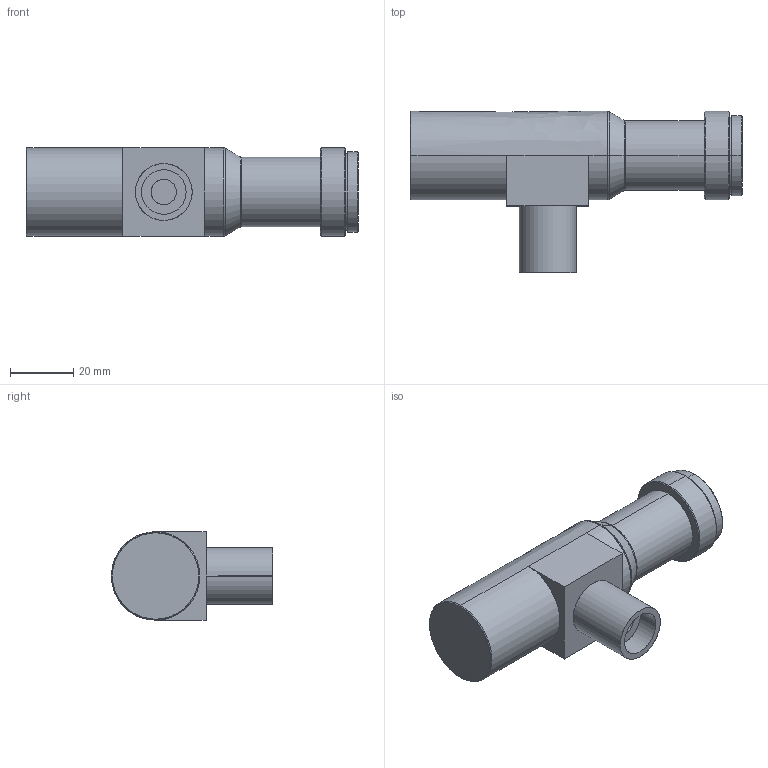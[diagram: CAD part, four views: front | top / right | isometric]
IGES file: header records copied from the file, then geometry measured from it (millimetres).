
Start section: SolidWorks IGES file using analytic representation for surfaces
Global section: file name: C:\Users\16255\Desktop\WWH10-63CTV3.IGS; native system: SolidWorks 2017; preprocessor: SolidWorks 2017; author: 16255; date: 210909.150038; units: millimetre
Bounding box: 105.3 x 51.1 x 28 mm (x, y, z)
Surface area: 12749.5 mm2 (no closed solid volume)
Topology: 0 solids, 0 shells, 44 faces, 658 edges, 658 vertices
Faces by surface type: revolution 27, bspline 17
